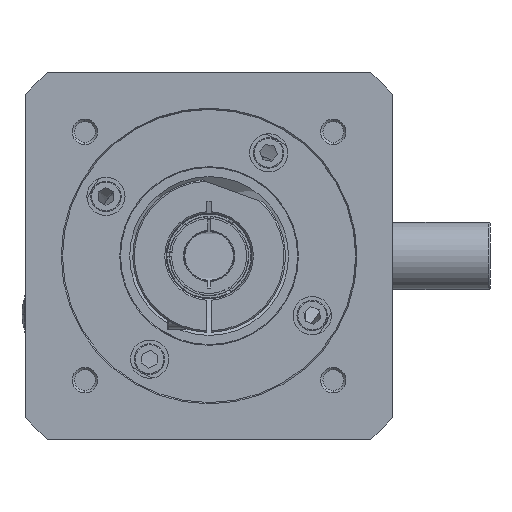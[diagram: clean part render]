
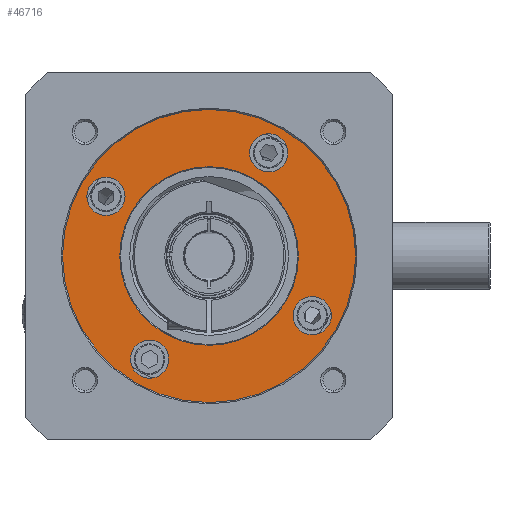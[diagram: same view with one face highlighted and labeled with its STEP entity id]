
A CAD part, front view. The second image highlights one B-rep face of the part: STEP entity #46716.
In plain terms, the highlighted planar face has unit normal (0, -1, 0).
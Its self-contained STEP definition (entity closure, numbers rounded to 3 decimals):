
#1587 = ORIENTED_EDGE ( 'NONE', *, *, #14567, .F. ) ;
#1694 = CARTESIAN_POINT ( 'NONE',  ( 33.775, -94., -19.5 ) ) ;
#2272 = CARTESIAN_POINT ( 'NONE',  ( 0., -94., 0. ) ) ;
#2380 = AXIS2_PLACEMENT_3D ( 'NONE', #5376, #13894, #21384 ) ;
#3178 = DIRECTION ( 'NONE',  ( 0., 0., 1. ) ) ;
#3367 = DIRECTION ( 'NONE',  ( 0., -1., 0. ) ) ;
#4751 = AXIS2_PLACEMENT_3D ( 'NONE', #2272, #48459, #37274 ) ;
#5179 = DIRECTION ( 'NONE',  ( 0., -1., 0. ) ) ;
#5376 = CARTESIAN_POINT ( 'NONE',  ( 0., -94., 0. ) ) ;
#5476 = ORIENTED_EDGE ( 'NONE', *, *, #17705, .F. ) ;
#5646 = EDGE_LOOP ( 'NONE', ( #21825, #10391 ) ) ;
#5940 = DIRECTION ( 'NONE',  ( 0., 0., 1. ) ) ;
#5958 = FACE_BOUND ( 'NONE', #15980, .T. ) ;
#6457 = DIRECTION ( 'NONE',  ( 0., 1., 0. ) ) ;
#7405 = CARTESIAN_POINT ( 'NONE',  ( 0., -94., -48. ) ) ;
#8416 = CIRCLE ( 'NONE', #18004, 6.25 ) ;
#8469 = CARTESIAN_POINT ( 'NONE',  ( 0., -94., 48. ) ) ;
#8479 = CIRCLE ( 'NONE', #24399, 29.25 ) ;
#8650 = CARTESIAN_POINT ( 'NONE',  ( 0., -94., 0. ) ) ;
#9516 = FACE_BOUND ( 'NONE', #33380, .T. ) ;
#10243 = CIRCLE ( 'NONE', #44519, 48. ) ;
#10391 = ORIENTED_EDGE ( 'NONE', *, *, #33532, .F. ) ;
#10661 = CARTESIAN_POINT ( 'NONE',  ( -33.775, -94., 19.5 ) ) ;
#12337 = VERTEX_POINT ( 'NONE', #43963 ) ;
#12482 = AXIS2_PLACEMENT_3D ( 'NONE', #33221, #21211, #21705 ) ;
#13894 = DIRECTION ( 'NONE',  ( 0., 1., 0. ) ) ;
#14567 = EDGE_CURVE ( 'NONE', #36334, #12337, #35605, .T. ) ;
#14616 = DIRECTION ( 'NONE',  ( 0., -1., 0. ) ) ;
#14729 = CIRCLE ( 'NONE', #43434, 6.25 ) ;
#14875 = AXIS2_PLACEMENT_3D ( 'NONE', #40964, #45165, #41933 ) ;
#15980 = EDGE_LOOP ( 'NONE', ( #44298, #44879 ) ) ;
#16584 = CARTESIAN_POINT ( 'NONE',  ( 33.775, -94., -25.75 ) ) ;
#17001 = VERTEX_POINT ( 'NONE', #44534 ) ;
#17705 = EDGE_CURVE ( 'NONE', #12337, #36334, #47233, .T. ) ;
#17833 = ORIENTED_EDGE ( 'NONE', *, *, #48447, .F. ) ;
#18004 = AXIS2_PLACEMENT_3D ( 'NONE', #10661, #3367, #29903 ) ;
#18311 = ORIENTED_EDGE ( 'NONE', *, *, #22783, .F. ) ;
#19409 = DIRECTION ( 'NONE',  ( 0., 0., 1. ) ) ;
#19452 = EDGE_CURVE ( 'NONE', #44631, #33723, #8479, .T. ) ;
#20505 = CIRCLE ( 'NONE', #28504, 6.25 ) ;
#21051 = EDGE_CURVE ( 'NONE', #22708, #44225, #10243, .T. ) ;
#21122 = ORIENTED_EDGE ( 'NONE', *, *, #19452, .T. ) ;
#21211 = DIRECTION ( 'NONE',  ( 0., -1., 0. ) ) ;
#21384 = DIRECTION ( 'NONE',  ( 0., 0., 1. ) ) ;
#21471 = FACE_BOUND ( 'NONE', #5646, .T. ) ;
#21705 = DIRECTION ( 'NONE',  ( 0., 0., 1. ) ) ;
#21825 = ORIENTED_EDGE ( 'NONE', *, *, #44269, .F. ) ;
#22708 = VERTEX_POINT ( 'NONE', #7405 ) ;
#22783 = EDGE_CURVE ( 'NONE', #23398, #17001, #14729, .T. ) ;
#22914 = CARTESIAN_POINT ( 'NONE',  ( 19.5, -94., 33.775 ) ) ;
#23398 = VERTEX_POINT ( 'NONE', #49359 ) ;
#23671 = CARTESIAN_POINT ( 'NONE',  ( 0., -94., 29.25 ) ) ;
#24215 = CARTESIAN_POINT ( 'NONE',  ( 33.775, -94., -19.5 ) ) ;
#24399 = AXIS2_PLACEMENT_3D ( 'NONE', #29722, #6457, #3178 ) ;
#24807 = CARTESIAN_POINT ( 'NONE',  ( -33.775, -94., 25.75 ) ) ;
#25031 = EDGE_LOOP ( 'NONE', ( #17833, #18311 ) ) ;
#25720 = AXIS2_PLACEMENT_3D ( 'NONE', #22914, #31178, #38923 ) ;
#27933 = CIRCLE ( 'NONE', #4751, 48. ) ;
#27951 = DIRECTION ( 'NONE',  ( 0., -1., 0. ) ) ;
#28355 = DIRECTION ( 'NONE',  ( 0., -1., 0. ) ) ;
#28504 = AXIS2_PLACEMENT_3D ( 'NONE', #39476, #5179, #32470 ) ;
#28520 = CARTESIAN_POINT ( 'NONE',  ( 0., -94., -29.25 ) ) ;
#28700 = ORIENTED_EDGE ( 'NONE', *, *, #36185, .T. ) ;
#28730 = DIRECTION ( 'NONE',  ( 0., -1., 0. ) ) ;
#28748 = FACE_OUTER_BOUND ( 'NONE', #47367, .T. ) ;
#29722 = CARTESIAN_POINT ( 'NONE',  ( 0., -94., 0. ) ) ;
#29903 = DIRECTION ( 'NONE',  ( 0., 0., 1. ) ) ;
#29921 = ORIENTED_EDGE ( 'NONE', *, *, #21051, .T. ) ;
#30548 = CARTESIAN_POINT ( 'NONE',  ( -33.775, -94., 13.25 ) ) ;
#30642 = AXIS2_PLACEMENT_3D ( 'NONE', #1694, #27951, #43186 ) ;
#30668 = CARTESIAN_POINT ( 'NONE',  ( -19.5, -94., -33.775 ) ) ;
#30860 = VERTEX_POINT ( 'NONE', #16584 ) ;
#31178 = DIRECTION ( 'NONE',  ( 0., -1., 0. ) ) ;
#32055 = CARTESIAN_POINT ( 'NONE',  ( 33.775, -94., -13.25 ) ) ;
#32215 = CIRCLE ( 'NONE', #30642, 6.25 ) ;
#32470 = DIRECTION ( 'NONE',  ( 0., 0., 1. ) ) ;
#32873 = CARTESIAN_POINT ( 'NONE',  ( 19.5, -94., 33.775 ) ) ;
#32977 = FACE_BOUND ( 'NONE', #38972, .T. ) ;
#33220 = AXIS2_PLACEMENT_3D ( 'NONE', #32873, #14616, #37374 ) ;
#33221 = CARTESIAN_POINT ( 'NONE',  ( 0., -94., 0. ) ) ;
#33380 = EDGE_LOOP ( 'NONE', ( #1587, #5476 ) ) ;
#33532 = EDGE_CURVE ( 'NONE', #30860, #35096, #49329, .T. ) ;
#33723 = VERTEX_POINT ( 'NONE', #23671 ) ;
#35065 = AXIS2_PLACEMENT_3D ( 'NONE', #24215, #28730, #5940 ) ;
#35096 = VERTEX_POINT ( 'NONE', #32055 ) ;
#35605 = CIRCLE ( 'NONE', #33220, 6.25 ) ;
#35815 = EDGE_CURVE ( 'NONE', #33723, #44631, #45446, .T. ) ;
#35958 = ORIENTED_EDGE ( 'NONE', *, *, #35815, .T. ) ;
#36185 = EDGE_CURVE ( 'NONE', #44225, #22708, #27933, .T. ) ;
#36247 = PLANE ( 'NONE',  #12482 ) ;
#36334 = VERTEX_POINT ( 'NONE', #37995 ) ;
#37274 = DIRECTION ( 'NONE',  ( 0., 0., 1. ) ) ;
#37374 = DIRECTION ( 'NONE',  ( 0., 0., 1. ) ) ;
#37995 = CARTESIAN_POINT ( 'NONE',  ( 19.5, -94., 40.025 ) ) ;
#38923 = DIRECTION ( 'NONE',  ( 0., 0., 1. ) ) ;
#38972 = EDGE_LOOP ( 'NONE', ( #35958, #21122 ) ) ;
#39476 = CARTESIAN_POINT ( 'NONE',  ( -19.5, -94., -33.775 ) ) ;
#40964 = CARTESIAN_POINT ( 'NONE',  ( -33.775, -94., 19.5 ) ) ;
#41933 = DIRECTION ( 'NONE',  ( 0., 0., 1. ) ) ;
#43186 = DIRECTION ( 'NONE',  ( 0., 0., 1. ) ) ;
#43434 = AXIS2_PLACEMENT_3D ( 'NONE', #30668, #46595, #19409 ) ;
#43562 = VERTEX_POINT ( 'NONE', #24807 ) ;
#43850 = VERTEX_POINT ( 'NONE', #30548 ) ;
#43963 = CARTESIAN_POINT ( 'NONE',  ( 19.5, -94., 27.525 ) ) ;
#44225 = VERTEX_POINT ( 'NONE', #8469 ) ;
#44269 = EDGE_CURVE ( 'NONE', #35096, #30860, #32215, .T. ) ;
#44298 = ORIENTED_EDGE ( 'NONE', *, *, #46739, .F. ) ;
#44388 = CIRCLE ( 'NONE', #14875, 6.25 ) ;
#44519 = AXIS2_PLACEMENT_3D ( 'NONE', #8650, #28355, #47315 ) ;
#44534 = CARTESIAN_POINT ( 'NONE',  ( -19.5, -94., -27.525 ) ) ;
#44631 = VERTEX_POINT ( 'NONE', #28520 ) ;
#44879 = ORIENTED_EDGE ( 'NONE', *, *, #47009, .F. ) ;
#45165 = DIRECTION ( 'NONE',  ( 0., -1., 0. ) ) ;
#45446 = CIRCLE ( 'NONE', #2380, 29.25 ) ;
#46595 = DIRECTION ( 'NONE',  ( 0., -1., 0. ) ) ;
#46716 = ADVANCED_FACE ( 'NONE', ( #32977, #21471, #9516, #5958, #47685, #28748 ), #36247, .T. ) ;
#46739 = EDGE_CURVE ( 'NONE', #43562, #43850, #44388, .T. ) ;
#47009 = EDGE_CURVE ( 'NONE', #43850, #43562, #8416, .T. ) ;
#47233 = CIRCLE ( 'NONE', #25720, 6.25 ) ;
#47315 = DIRECTION ( 'NONE',  ( 0., 0., 1. ) ) ;
#47367 = EDGE_LOOP ( 'NONE', ( #28700, #29921 ) ) ;
#47685 = FACE_BOUND ( 'NONE', #25031, .T. ) ;
#48447 = EDGE_CURVE ( 'NONE', #17001, #23398, #20505, .T. ) ;
#48459 = DIRECTION ( 'NONE',  ( 0., -1., 0. ) ) ;
#49329 = CIRCLE ( 'NONE', #35065, 6.25 ) ;
#49359 = CARTESIAN_POINT ( 'NONE',  ( -19.5, -94., -40.025 ) ) ;
